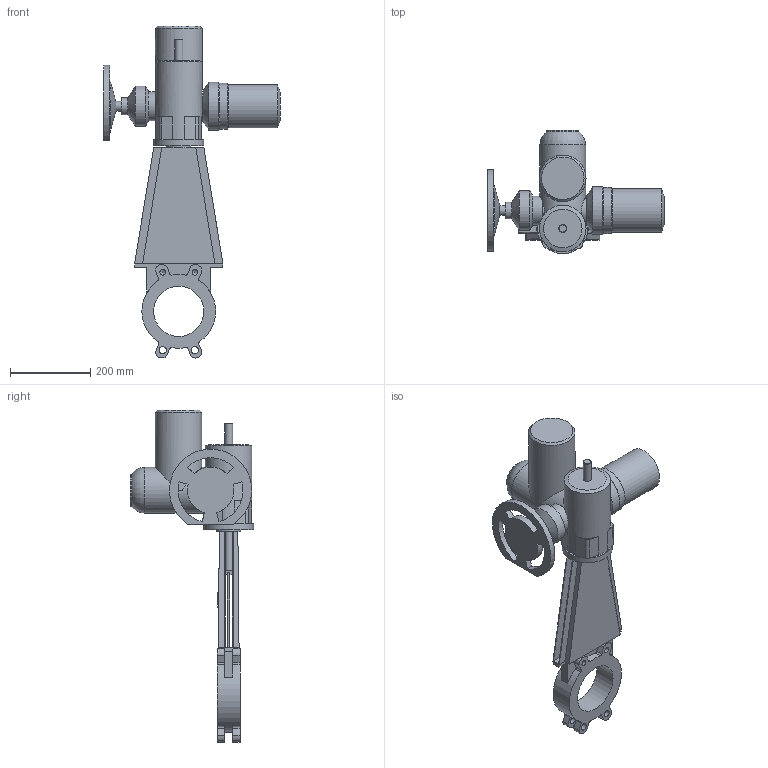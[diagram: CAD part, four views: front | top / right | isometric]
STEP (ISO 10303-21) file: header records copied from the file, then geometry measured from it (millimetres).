
FILE_DESCRIPTION(('STEP AP203'), '1');
FILE_NAME('K21GVA_DN125+MT903.A 07', '', ('UNSPECIFIED'), ('UNSPECIFIED'), 'ASCON STEP Converter 1.6', 'ASCON Math Kernel', '');
FILE_SCHEMA(('CONFIG_CONTROL_DESIGN'));
Length unit declared in the file: millimetre
Bounding box: 440 x 307.5 x 827.37 mm (x, y, z)
Volume: 10029314.3 mm3; surface area: 829916.9 mm2
Topology: 1 solids, 1 shells, 240 faces, 642 edges, 412 vertices
Faces by surface type: plane 145, cylinder 80, cone 14, torus 1
Full cylindrical faces by diameter (mm): 8.5 x4, 12 x4, 13.835 x4, 18 x4, 20 x2, 24 x1, 42 x1, 60 x1, 66 x1, 72 x1, 80 x1, 100 x1, 108 x1, 114 x1, 115 x1, 116 x2, 119 x1, 125 x2, 184 x1
Entity records: 10262 total; most frequent: CARTESIAN_POINT 2374, DIRECTION 1248, ORIENTED_EDGE 1176, EDGE_CURVE 588, AXIS2_PLACEMENT_3D 446, VERTEX_POINT 408, LINE 356, VECTOR 356
